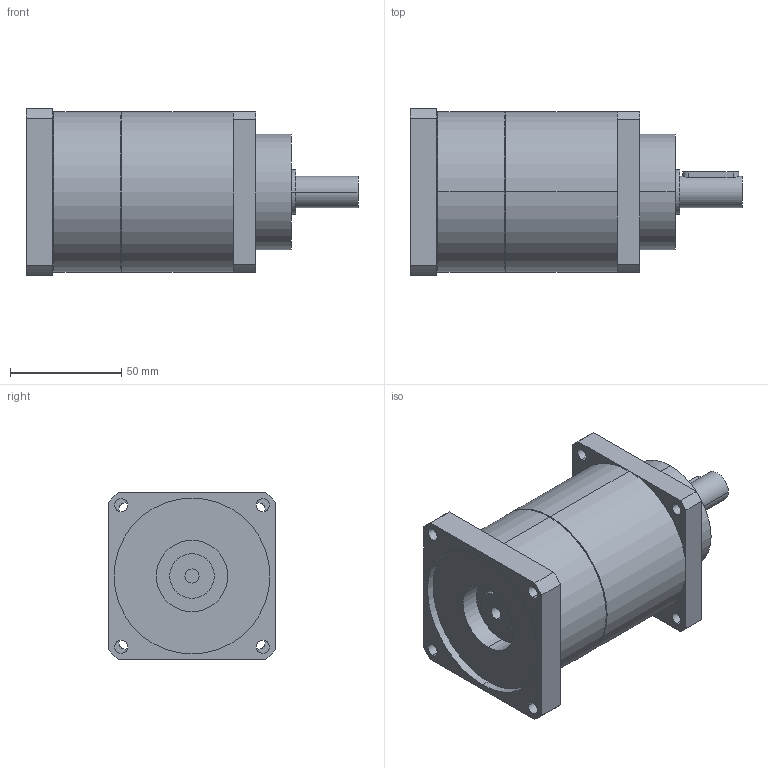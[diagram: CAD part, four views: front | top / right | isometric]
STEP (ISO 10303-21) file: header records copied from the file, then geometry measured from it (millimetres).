
FILE_DESCRIPTION(('CoCreate Modeling STEP Export'),'2;1');
FILE_NAME('GPT75_ig-9-12-16-20-25-28-35-40-50-70-100_14_B5T_6.35_P24.stp','2014-08-27T13:39:37',(''),(''),'CoCreate Modeling STEP processor for AP214 (Solid Model)','CoCreate Modeling 16.00C 25-Feb-2009 (C) Parametric Technology GmbH','');
FILE_SCHEMA(('AUTOMOTIVE_DESIGN { 1 0 10303 214 1 1 1 1 }'));
Length unit declared in the file: millimetre
Products named in the file (2): GPT75_ig-9-12-16-20-25-28-35-40-50-70-100_14_B5T_6.35_P24
Assembly tree (1 placements, depth 2):
  GPT75_ig-9-12-16-20-25-28-35-40-50-70-100_14_B5T_6.35_P24
    GPT75_ig-9-12-16-20-25-28-35-40-50-70-100_14_B5T_6.35_P24
Bounding box: 149 x 75 x 75 mm (x, y, z)
Volume: 464889 mm3; surface area: 46201.3 mm2
Topology: 1 solids, 1 shells, 77 faces, 191 edges, 126 vertices
Faces by surface type: cylinder 46, plane 27, cone 4
Entity records: 2469 total; most frequent: CARTESIAN_POINT 716, ORIENTED_EDGE 382, DIRECTION 320, EDGE_CURVE 191, VERTEX_POINT 126, AXIS2_PLACEMENT_3D 118, EDGE_LOOP 103, VECTOR 84
